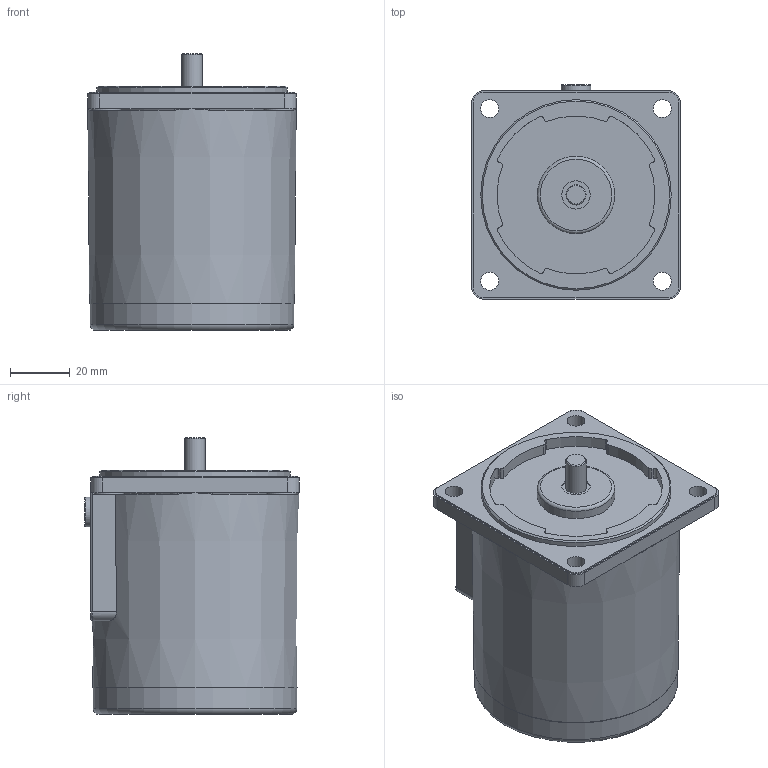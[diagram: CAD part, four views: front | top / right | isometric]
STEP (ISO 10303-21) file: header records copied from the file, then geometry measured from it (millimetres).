
FILE_DESCRIPTION (( 'STEP AP214' ), '1' );
FILE_NAME ('7IDG¤±-15G.STEP', '2025-01-13T01:44:59', ( '' ), ( '' ), 'SwSTEP 2.0', 'SolidWorks 2024', '' );
FILE_SCHEMA (( 'AUTOMOTIVE_DESIGN' ));
Length unit declared in the file: millimetre
Products named in the file (1): 7IDGㅁ-15G
Bounding box: 70 x 72 x 93 mm (x, y, z)
Volume: 311378 mm3; surface area: 29756.2 mm2
Topology: 1 solids, 1 shells, 113 faces, 282 edges, 179 vertices
Faces by surface type: cylinder 54, plane 40, torus 9, bspline 7, cone 3
Full cylindrical faces by diameter (mm): 6 x5, 6.8 x1, 9.5 x1, 10 x5, 26 x1, 34.5 x1, 64 x1, 68.4 x1
Entity records: 3454 total; most frequent: CARTESIAN_POINT 807, DIRECTION 580, ORIENTED_EDGE 496, EDGE_CURVE 248, AXIS2_PLACEMENT_3D 238, VERTEX_POINT 173, EDGE_LOOP 157, FACE_OUTER_BOUND 132
